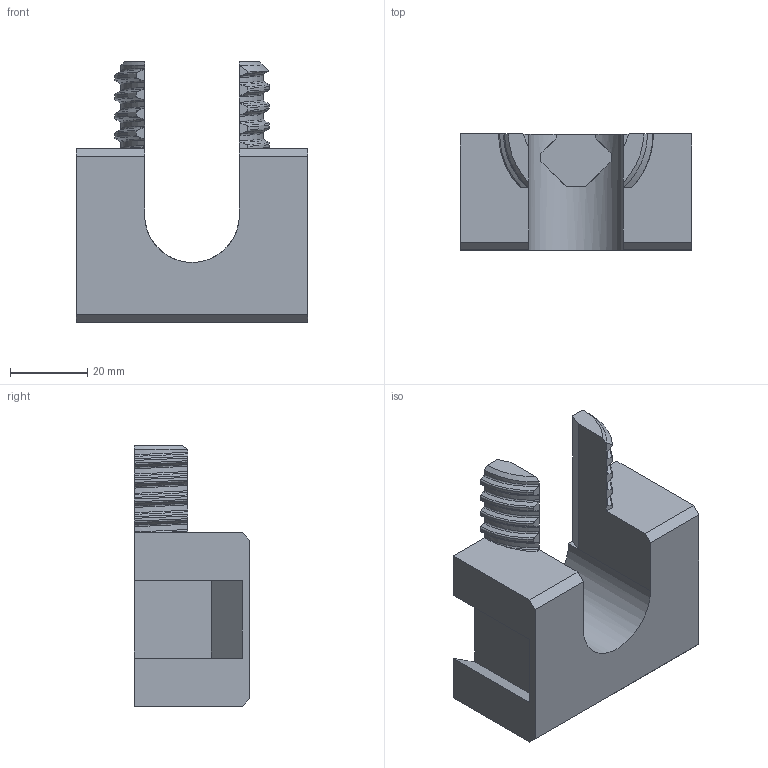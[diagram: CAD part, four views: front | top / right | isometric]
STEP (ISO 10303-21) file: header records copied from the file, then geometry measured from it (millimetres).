
FILE_DESCRIPTION (( 'STEP AP214' ), '1' );
FILE_NAME ('DS_v2B_DrziakLPd.STEP', '2026-03-22T08:48:50', ( '' ), ( '' ), 'SwSTEP 2.0', 'SolidWorks 2026', '' );
FILE_SCHEMA (( 'AUTOMOTIVE_DESIGN' ));
Length unit declared in the file: millimetre
Products named in the file (1): DS_v2B_DrziakLPd
Bounding box: 60 x 30 x 67.5 mm (x, y, z)
Volume: 51989.9 mm3; surface area: 15060 mm2
Topology: 1 solids, 1 shells, 120 faces, 334 edges, 216 vertices
Faces by surface type: bspline 62, plane 46, cylinder 10, cone 2
Entity records: 36983 total; most frequent: CARTESIAN_POINT 34672, ORIENTED_EDGE 668, EDGE_CURVE 334, DIRECTION 255, VERTEX_POINT 216, LINE 125, VECTOR 125, ADVANCED_FACE 120
